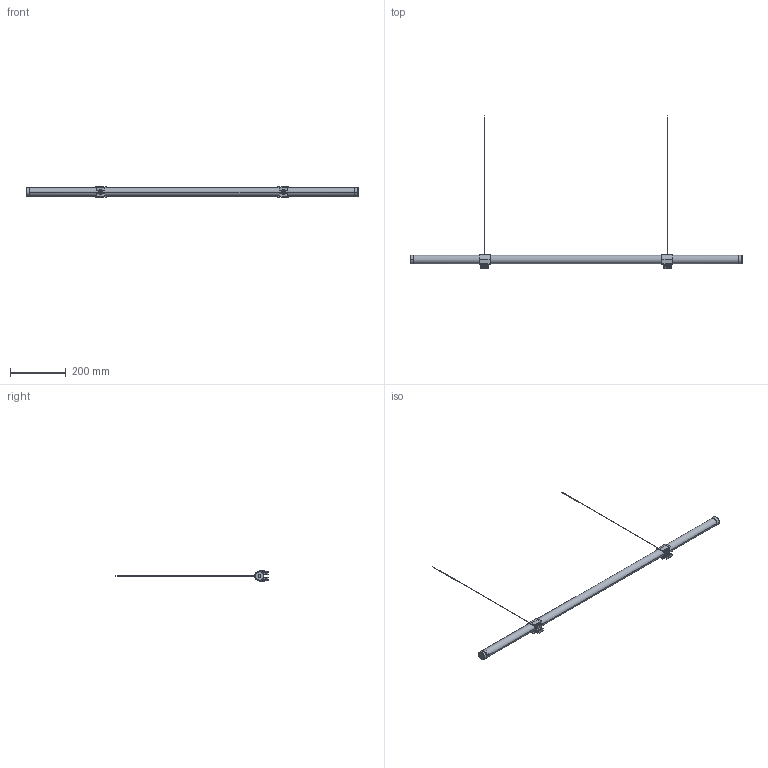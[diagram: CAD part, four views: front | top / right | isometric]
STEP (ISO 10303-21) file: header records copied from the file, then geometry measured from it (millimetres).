
FILE_DESCRIPTION (( 'STEP AP214' ), '1' );
FILE_NAME ('ACTUCXXXXXBI2XX.STEP', '2023-08-29T07:40:32', ( '' ), ( '' ), 'SwSTEP 2.0', 'SolidWorks 2023', '' );
FILE_SCHEMA (( 'AUTOMOTIVE_DESIGN' ));
Length unit declared in the file: millimetre
Products named in the file (6): WSCP2E0003-1400-02; WSCP2E0048-1400-00; WSVBPAR116235XX-00; ACTUCXXXXXBI2XX; WSCP2E0012-1400-01; WSCA01193000B2830B
Assembly tree (7 placements, depth 2):
  ACTUCXXXXXBI2XX
    WSVBPAR116235XX-00
    WSCP2E0003-1400-02  x2
    WSCP2E0048-1400-00
    WSCP2E0012-1400-01
    WSCA01193000B2830B  x2
Bounding box: 1185.9 x 542.96 x 36.2 mm (x, y, z)
Volume: 325209.9 mm3; surface area: 231393.5 mm2
Topology: 7 solids, 7 shells, 2119 faces, 5091 edges, 2735 vertices
Faces by surface type: cylinder 873, torus 552, plane 269, sphere 234, bspline 173, cone 18
Entity records: 51903 total; most frequent: CARTESIAN_POINT 13747, DIRECTION 8786, ORIENTED_EDGE 7662, EDGE_CURVE 3831, AXIS2_PLACEMENT_3D 3782, CIRCLE 2207, VERTEX_POINT 2130, EDGE_LOOP 1733
